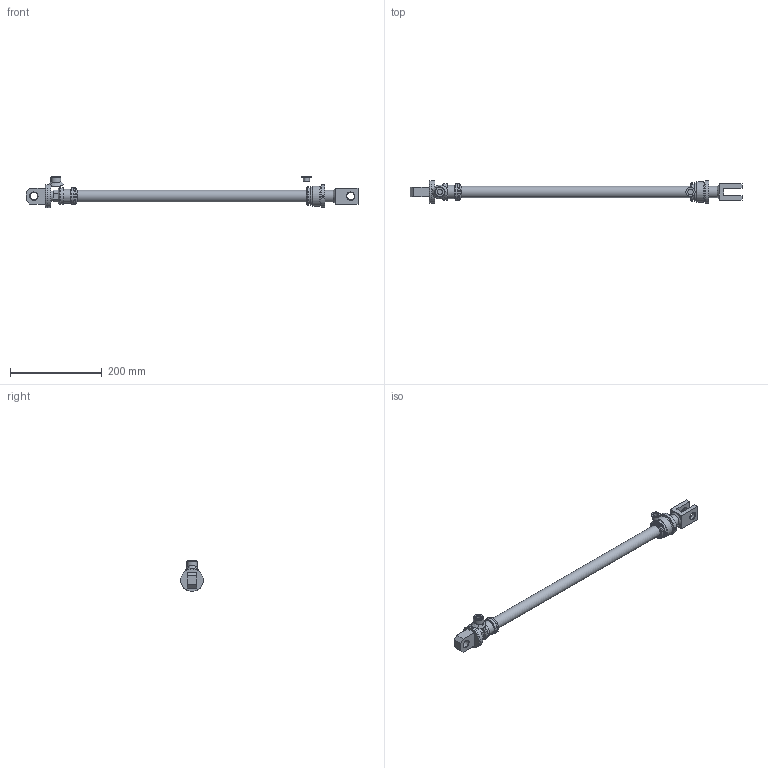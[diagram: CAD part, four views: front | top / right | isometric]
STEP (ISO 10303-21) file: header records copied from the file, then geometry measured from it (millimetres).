
FILE_DESCRIPTION( ( 'Unknown' ), '1' );
FILE_NAME( 'E:/LIBRERIA_3d/CILINDRI/HM5/HM51250500.stp', 'Unknown', ( 'Unknown' ), ( 'Unknown' ), 'PSStep 17.0.49', 'Unknown', ' ' );
FILE_SCHEMA( ( 'AUTOMOTIVE_DESIGN { 1 0 10303 214 1 1 1 1 }' ) );
Length unit declared in the file: millimetre
Products named in the file (20): CT00040015; CG05004025; HM01250500-oa3; Saldatura con preparazione 1-oa1; Saldatura d'angolo 1-oa2; CF00040050; CBS0400000; CDA0001415; APG0400000; SBL2510500; Assem1; CSCS004010; COF1600000; CFS0000016; Saldatura d'angolo 1-oa0
Assembly tree (17 placements, depth 4):
  Saldatura d'angolo 1-oa2
  Saldatura d'angolo 1-oa2
  Assem1
    CSCS004010  x2
    COF1600000
    CFS0000016
    HM01250500-oa3
      Saldatura con preparazione 1-oa1
      Saldatura con preparazione 1-oa1
      CF00040050
      CBS0400000
      CDA0001415
      APG0400000  x2
      SBL2510500
      CG05004025
        CG05004025
      CT00040015
        CT00040015
  Saldatura d'angolo 1-oa0
  Saldatura d'angolo 1-oa0
Bounding box: 722 x 50 x 68 mm (x, y, z)
Volume: 442319 mm3; surface area: 113055.6 mm2
Topology: 18 solids, 18 shells, 227 faces, 477 edges, 300 vertices
Faces by surface type: plane 80, cylinder 59, cone 44, torus 32, bspline 12
Full cylindrical faces by diameter (mm): 4 x4, 4.25 x3, 11.445 x1, 12 x2, 13.1 x2, 14 x2, 15 x3, 16.2 x3, 19.5 x1, 20 x4, 22 x2, 25 x4, 27 x1, 28 x1, 30 x1, 33 x1, 33.6 x1, 35 x1, 35.4 x2, 38.5 x2, 39.9 x1, 40.3 x1, 40.5 x1, 41 x1, 42 x3, 44 x1, 49 x1, 50 x3
Entity records: 7520 total; most frequent: CARTESIAN_POINT 2014, DIRECTION 876, ORIENTED_EDGE 558, AXIS2_PLACEMENT_3D 398, EDGE_LOOP 372, FACE_OUTER_BOUND 294, EDGE_CURVE 279, VERTEX_POINT 240
